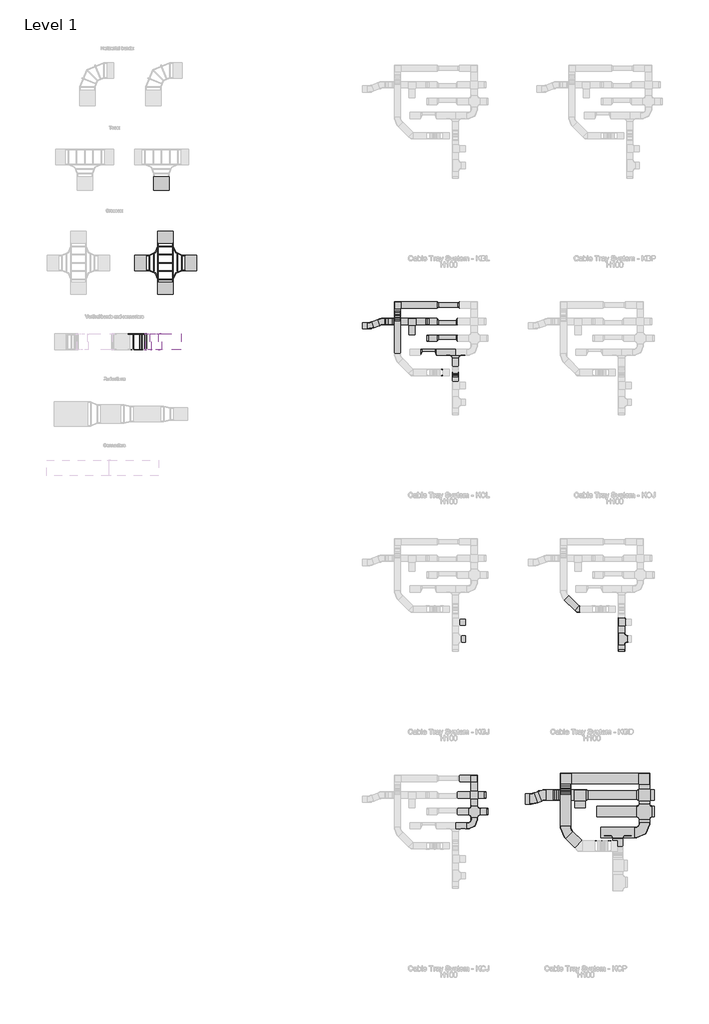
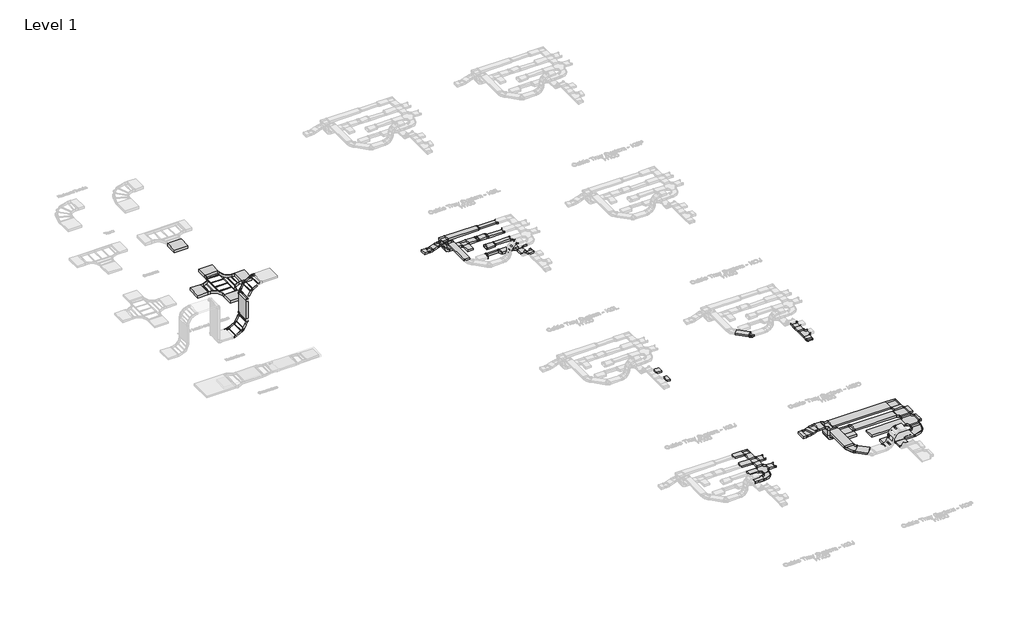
# One storey, part 22 of 106: 62 cable carrier fittings, 57 cable carrier segments.
"""IFC4 building model written with IfcOpenShell, lengths in millimetres."""

from ifc_helpers import new_model, si_unit, frame, origin, place, context, project, spatial, polyline, outline, extrude, transform, mapped, element, save
from components import cable_carrier_fitting_ce7a3b76, cable_carrier_fitting_4de00f68, cable_carrier_fitting_ece48d34, cable_carrier_fitting_d4f283aa, cable_carrier_fitting_389af67d, cable_carrier_fitting_ab346bf8, cable_carrier_fitting_c163f1ca, cable_carrier_fitting_32826c86, cable_carrier_fitting_42195290, cable_carrier_fitting_5f227b89, cable_carrier_fitting_7ef83dec, cable_carrier_fitting_24d58ad9, cable_carrier_fitting_81c76d70, cable_carrier_fitting_e69bf5bc, cable_carrier_fitting_b7b75895, cable_carrier_fitting_0afdfe74, cable_carrier_fitting_3a6d649d, cable_carrier_fitting_2d5aa353, cable_carrier_fitting_83230dc4, cable_carrier_fitting_3cbe9e62, cable_carrier_fitting_c86838e9, cable_carrier_fitting_985dcf24, cable_carrier_fitting_ca5a2d19, cable_carrier_fitting_8809d5a3, cable_carrier_fitting_4562ccd4, cable_carrier_fitting_dcc5a5fb, cable_carrier_fitting_a6edbbf3, cable_carrier_fitting_a0d47c04, cable_carrier_fitting_38514b7d, cable_carrier_fitting_a285f0eb, cable_carrier_fitting_ec34a846, cable_carrier_fitting_a7a9146a, cable_carrier_fitting_ade76aff, cable_carrier_fitting_570c6ff0, cable_carrier_fitting_0a0ebc2e, cable_carrier_fitting_3ce5f4b2, cable_carrier_fitting_32456c58, cable_carrier_fitting_46bfce34, cable_carrier_fitting_2a96a9fd, cable_carrier_fitting_8722d5a2, cable_carrier_fitting_851eb94e, cable_carrier_fitting_844d2b92, cable_carrier_fitting_c0e00dde

model = new_model("IFC4")

# Units and contexts
model_context = context("Model", 3, world=origin())
ifc_project = project(units=[si_unit("LENGTHUNIT", "METRE", prefix="MILLI")], contexts=[model_context])

# Site, building, storey
site = spatial("IfcSite", under=ifc_project)
building = spatial("IfcBuilding", under=site)
storey = spatial("IfcBuildingStorey", under=building, Name="Level 1", Elevation=0.0)

# Cable carrier fittings
placement = place(None, origin())
cable_carrier_fitting_shape = cable_carrier_fitting_ce7a3b76(model_context)
element("IfcCableCarrierFitting", 1, ObjectType="BAKS_LDLS_BEND_Adjustable vertical bend element_ELDS : ELDSC_H100", at=placement, inside=storey, context=model_context, shape_type="MappedRepresentation", body=[
    mapped(cable_carrier_fitting_shape, transform((144142.1548019, 56206.9805429, 55.0), x_axis=(0.8660254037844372, 0.0, 0.5000000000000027), y_axis=(0.0, 1.0, 0.0), z_axis=(-0.5000000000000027, 0.0, 0.8660254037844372))),
])
element("IfcCableCarrierFitting", 2, ObjectType="BAKS_LDLS_BEND_Adjustable vertical bend element_ELDS : ELDSC_H100", at=placement, inside=storey, context=model_context, shape_type="MappedRepresentation", body=[
    mapped(cable_carrier_fitting_shape, transform((144825.1675038, 56206.9805429, 738.0127019), x_axis=(-0.49999999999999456, 0.0, -0.8660254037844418), y_axis=(0.0, -1.0, 0.0), z_axis=(-0.8660254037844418, 0.0, 0.49999999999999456))),
])
element("IfcCableCarrierFitting", 3, ObjectType="BAKS_LDLS_BEND_Adjustable vertical bend element_ELDS : ELDSC_H100", at=placement, inside=storey, context=model_context, shape_type="MappedRepresentation", body=[
    mapped(cable_carrier_fitting_shape, transform((144825.1675038, 56206.9805429, 2053.6237578), x_axis=(0.5000000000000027, 0.0, 0.8660254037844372), y_axis=(0.0, -1.0, 0.0), z_axis=(0.8660254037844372, 0.0, -0.5000000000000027))),
])
element("IfcCableCarrierFitting", 4, ObjectType="BAKS_LDLS_BEND_Adjustable vertical bend element_ELDS : ELDSC_H100", at=placement, inside=storey, context=model_context, shape_type="MappedRepresentation", body=[
    mapped(cable_carrier_fitting_shape, transform((145508.1802057, 56206.9805429, 2736.6364597), x_axis=(-0.8660254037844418, 0.0, -0.49999999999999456), y_axis=(0.0, 1.0, 0.0), z_axis=(0.49999999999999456, 0.0, -0.8660254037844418))),
])
cable_carrier_fitting_2_shape = cable_carrier_fitting_4de00f68(model_context)
element("IfcCableCarrierFitting", 5, ObjectType="BAKS_LD_BEND_Articulated connector_LGC : LGC_H100", at=placement, inside=storey, context=model_context, shape_type="MappedRepresentation", body=[
    mapped(cable_carrier_fitting_2_shape, transform((144825.1675038, 56581.9805429, 2053.6237578), x_axis=(0.0, 0.0, 1.0), y_axis=(1.0, 0.0, 0.0), z_axis=(0.0, 1.0, 0.0))),
])
element("IfcCableCarrierFitting", 6, ObjectType="BAKS_LD_BEND_Articulated connector_LGC : LGC_H100", at=placement, inside=storey, context=model_context, shape_type="MappedRepresentation", body=[
    mapped(cable_carrier_fitting_2_shape, transform((145508.1802057, 56581.9805429, 2736.6364597), x_axis=(0.8660254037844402, 0.0, 0.49999999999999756), y_axis=(0.49999999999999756, 0.0, -0.8660254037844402), z_axis=(0.0, 1.0, 0.0))),
])
cable_carrier_fitting_3_shape = cable_carrier_fitting_ece48d34(model_context)
element("IfcCableCarrierFitting", 7, ObjectType="BAKS_LD_BEND_Articulated connector_LGC : LGC_H100", at=placement, inside=storey, context=model_context, shape_type="MappedRepresentation", body=[
    mapped(cable_carrier_fitting_3_shape, transform((144825.1675038, 56581.9805429, 738.0127019), x_axis=(0.4999999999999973, 0.0, 0.8660254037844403), y_axis=(0.8660254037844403, 0.0, -0.4999999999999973), z_axis=(0.0, 1.0, 0.0))),
])
element("IfcCableCarrierFitting", 8, ObjectType="BAKS_LD_BEND_Articulated connector_LGC : LGC_H100", at=placement, inside=storey, context=model_context, shape_type="MappedRepresentation", body=[
    mapped(cable_carrier_fitting_3_shape, transform((144142.1548019, 56581.9805429, 55.0), x_axis=(1.0, 0.0, 0.0), y_axis=(0.0, 0.0, -1.0), z_axis=(0.0, 1.0, 0.0))),
])
cable_carrier_fitting_4_shape = cable_carrier_fitting_d4f283aa(model_context)
element("IfcCableCarrierFitting", 9, ObjectType="BAKS_Reducer : RK(S/L/P)J_H100", at=placement, inside=storey, context=model_context, shape_type="MappedRepresentation", body=[
    mapped(cable_carrier_fitting_4_shape, transform((158399.3329462, 57180.8714214, 0.0), x_axis=(1.0, 0.0, 0.0), y_axis=(0.0, 1.0, 0.0), z_axis=(0.0, 0.0, 1.0))),
])
element("IfcCableCarrierFitting", 10, ObjectType="BAKS_Reducer : RK(S/L/P)J_H100", at=placement, inside=storey, context=model_context, shape_type="MappedRepresentation", body=[
    mapped(cable_carrier_fitting_4_shape, transform((158399.3329462, 57180.8714214, 0.0), x_axis=(-1.0, 0.0, 0.0), y_axis=(0.0, -1.0, 0.0), z_axis=(0.0, 0.0, 1.0))),
])
element("IfcCableCarrierFitting", 11, ObjectType="BAKS_Reducer : RK(S/L/P)J_H100", at=placement, inside=storey, context=model_context, shape_type="MappedRepresentation", body=[
    mapped(cable_carrier_fitting_4_shape, transform((158377.8329462, 56380.8714214, 0.0), x_axis=(1.0, 0.0, 0.0), y_axis=(0.0, 1.0, 0.0), z_axis=(0.0, 0.0, 1.0))),
])
element("IfcCableCarrierFitting", 12, ObjectType="BAKS_Reducer : RK(S/L/P)J_H100", at=placement, inside=storey, context=model_context, shape_type="MappedRepresentation", body=[
    mapped(cable_carrier_fitting_4_shape, transform((167753.8329462, 41294.2974728, 432.5277378), x_axis=(0.0, 1.0, 0.0), y_axis=(-1.0, 0.0, 0.0), z_axis=(0.0, 0.0, 1.0))),
])
element("IfcCableCarrierFitting", 13, ObjectType="BAKS_Reducer : RK(S/L/P)J_H100", at=placement, inside=storey, context=model_context, shape_type="MappedRepresentation", body=[
    mapped(cable_carrier_fitting_4_shape, transform((161211.8329462, 34380.8714214, 0.0), x_axis=(-1.0, 0.0, 0.0), y_axis=(0.0, -1.0, 0.0), z_axis=(0.0, 0.0, 1.0))),
])
element("IfcCableCarrierFitting", 14, ObjectType="BAKS_Reducer : RK(S/L/P)J_H100", at=placement, inside=storey, context=model_context, shape_type="MappedRepresentation", body=[
    mapped(cable_carrier_fitting_4_shape, transform((161325.8329462, 33580.8714214, 0.0), x_axis=(-1.0, 0.0, 0.0), y_axis=(0.0, -1.0, 0.0), z_axis=(0.0, 0.0, 1.0))),
])
cable_carrier_fitting_5_shape = cable_carrier_fitting_389af67d(model_context)
element("IfcCableCarrierFitting", 15, ObjectType="BAKS_Reducer : RK(S/L/P)J_H100", at=placement, inside=storey, context=model_context, shape_type="MappedRepresentation", body=[
    mapped(cable_carrier_fitting_5_shape, transform((158856.8329462, 57980.8714214, 0.0), x_axis=(1.0, 0.0, 0.0), y_axis=(0.0, 1.0, 0.0), z_axis=(0.0, 0.0, 1.0))),
])
cable_carrier_fitting_6_shape = cable_carrier_fitting_ab346bf8(model_context)
element("IfcCableCarrierFitting", 16, ObjectType="BAKS_Reducer : RK(S/L/P)J_H100", at=placement, inside=storey, context=model_context, shape_type="MappedRepresentation", body=[
    mapped(cable_carrier_fitting_6_shape, transform((159856.8329462, 57980.8714214, 0.0), x_axis=(1.0, 0.0, 0.0), y_axis=(0.0, 1.0, 0.0), z_axis=(0.0, 0.0, 1.0))),
])
cable_carrier_fitting_7_shape = cable_carrier_fitting_c163f1ca(model_context)
element("IfcCableCarrierFitting", 17, ObjectType="BAKS_Reducer : RK(S/L/P)J_H100", at=placement, inside=storey, context=model_context, shape_type="MappedRepresentation", body=[
    mapped(cable_carrier_fitting_7_shape, transform((159761.8329462, 57130.8714214, 0.0), x_axis=(1.0, 0.0, 0.0), y_axis=(0.0, 1.0, 0.0), z_axis=(0.0, 0.0, 1.0))),
])
element("IfcCableCarrierFitting", 18, ObjectType="BAKS_Reducer : RK(S/L/P)J_H100", at=placement, inside=storey, context=model_context, shape_type="MappedRepresentation", body=[
    mapped(cable_carrier_fitting_7_shape, transform((158951.8329462, 56430.8714214, 0.0), x_axis=(-1.0, 0.0, 0.0), y_axis=(0.0, -1.0, 0.0), z_axis=(0.0, 0.0, 1.0))),
])
cable_carrier_fitting_8_shape = cable_carrier_fitting_32826c86(model_context)
element("IfcCableCarrierFitting", 19, ObjectType="BAKS_Reducer : RK(S/L/P)J_H100", at=placement, inside=storey, context=model_context, shape_type="MappedRepresentation", body=[
    mapped(cable_carrier_fitting_8_shape, transform((158951.8329462, 57130.8714214, 0.0), x_axis=(-1.0, 0.0, 0.0), y_axis=(0.0, -1.0, 0.0), z_axis=(0.0, 0.0, 1.0))),
])
element("IfcCableCarrierFitting", 20, ObjectType="BAKS_Reducer : RK(S/L/P)J_H100", at=placement, inside=storey, context=model_context, shape_type="MappedRepresentation", body=[
    mapped(cable_carrier_fitting_8_shape, transform((159761.8329462, 56430.8714214, 0.0), x_axis=(1.0, 0.0, 0.0), y_axis=(0.0, 1.0, 0.0), z_axis=(0.0, 0.0, 1.0))),
])
cable_carrier_fitting_9_shape = cable_carrier_fitting_42195290(model_context)
element("IfcCableCarrierFitting", 21, ObjectType="BAKS_Horizontal bend : KKJ/KKMJ_H100", at=placement, inside=storey, context=model_context, shape_type="MappedRepresentation", body=[
    mapped(cable_carrier_fitting_9_shape, transform((156956.8329462, 57980.8714214, 0.0), x_axis=(-1.0, 0.0, 0.0), y_axis=(0.0, -1.0, 0.0), z_axis=(0.0, 0.0, 1.0))),
])
element("IfcCableCarrierFitting", 22, ObjectType="BAKS_Horizontal bend : KKJ/KKMJ_H100", at=placement, inside=storey, context=model_context, shape_type="MappedRepresentation", body=[
    mapped(cable_carrier_fitting_9_shape, transform((160656.8329462, 35180.8714214, 0.0), x_axis=(0.0, 1.0, 0.0), y_axis=(-1.0, 0.0, 0.0), z_axis=(0.0, 0.0, 1.0))),
])
cable_carrier_fitting_10_shape = cable_carrier_fitting_5f227b89(model_context)
element("IfcCableCarrierFitting", 23, ObjectType="BAKS_Horizontal cross over : CZKJ_H100", at=placement, inside=storey, context=model_context, shape_type="MappedRepresentation", body=[
    mapped(cable_carrier_fitting_10_shape, transform((160656.8329462, 34380.8714214, 0.0), x_axis=(0.0, -1.0, 0.0), y_axis=(1.0, 0.0, 0.0), z_axis=(0.0, 0.0, 1.0))),
])
cable_carrier_fitting_11_shape = cable_carrier_fitting_7ef83dec(model_context)
element("IfcCableCarrierFitting", 24, ObjectType="BAKS_Horizontal cross over radius : CZKPJ_H100", at=placement, inside=storey, context=model_context, shape_type="MappedRepresentation", body=[
    mapped(cable_carrier_fitting_11_shape, transform((160656.8329462, 33580.8714214, 0.0), x_axis=(0.0, -1.0, 0.0), y_axis=(1.0, 0.0, 0.0), z_axis=(0.0, 0.0, 1.0))),
])
cable_carrier_fitting_12_shape = cable_carrier_fitting_24d58ad9(model_context)
element("IfcCableCarrierFitting", 25, ObjectType="BAKS_Horizontal bend radius : KKPJ/KKMPJ_H100", at=placement, inside=storey, context=model_context, shape_type="MappedRepresentation", body=[
    mapped(cable_carrier_fitting_12_shape, transform((160656.8329462, 32899.8714214, 0.0), x_axis=(1.0, 0.0, 0.0), y_axis=(0.0, 1.0, 0.0), z_axis=(0.0, 0.0, 1.0))),
])
cable_carrier_fitting_13_shape = cable_carrier_fitting_81c76d70(model_context)
element("IfcCableCarrierFitting", 26, ObjectType="BAKS_Horizontal addon tee : TKDJ_H100", at=placement, inside=storey, context=model_context, shape_type="MappedRepresentation", body=[
    mapped(cable_carrier_fitting_13_shape, transform((159753.8329462, 55699.8714214, 0.0), x_axis=(1.0, 0.0, 0.0), y_axis=(0.0, 1.0, 0.0), z_axis=(0.0, 0.0, 1.0))),
])
cable_carrier_fitting_14_shape = cable_carrier_fitting_e69bf5bc(model_context)
element("IfcCableCarrierFitting", 27, ObjectType="BAKS_Reducer : RK(S/L/P)J_H100", at=placement, inside=storey, context=model_context, shape_type="MappedRepresentation", body=[
    mapped(cable_carrier_fitting_14_shape, transform((158750.8329462, 55799.8714214, 0.0), x_axis=(1.0, 0.0, 0.0), y_axis=(0.0, 1.0, 0.0), z_axis=(0.0, 0.0, 1.0))),
])
cable_carrier_fitting_15_shape = cable_carrier_fitting_b7b75895(model_context)
element("IfcCableCarrierFitting", 28, ObjectType="BAKS_Reducer : RK(S/L/P)J_H100", at=placement, inside=storey, context=model_context, shape_type="MappedRepresentation", body=[
    mapped(cable_carrier_fitting_15_shape, transform((158152.8329462, 55799.8714214, 0.0), x_axis=(-1.0, 0.0, 0.0), y_axis=(0.0, -1.0, 0.0), z_axis=(0.0, 0.0, 1.0))),
])
cable_carrier_fitting_16_shape = cable_carrier_fitting_0afdfe74(model_context)
element("IfcCableCarrierFitting", 29, ObjectType="BAKS_Horizontal tee : TKJ_H100", at=placement, inside=storey, context=model_context, shape_type="MappedRepresentation", body=[
    mapped(cable_carrier_fitting_16_shape, transform((157656.3329462, 57180.8714214, 0.0), x_axis=(1.0, 0.0, 0.0), y_axis=(0.0, 1.0, 0.0), z_axis=(0.0, 0.0, 1.0))),
])
element("IfcCableCarrierFitting", 30, ObjectType="BAKS_Horizontal tee : TKJ_H100", at=placement, inside=storey, context=model_context, shape_type="MappedRepresentation", body=[
    mapped(cable_carrier_fitting_16_shape, transform((167753.8329462, 42703.8631068, 432.5277378), x_axis=(0.0, 1.0, 0.0), y_axis=(-1.0, 0.0, 0.0), z_axis=(0.0, 0.0, 1.0))),
])
cable_carrier_fitting_17_shape = cable_carrier_fitting_3a6d649d(model_context)
element("IfcCableCarrierFitting", 31, ObjectType="BAKS_Horizontal bend radius : KKPJ/KKMPJ_H100", at=placement, inside=storey, context=model_context, shape_type="MappedRepresentation", body=[
    mapped(cable_carrier_fitting_17_shape, transform((156186.1981218, 57180.8714214, 438.0), x_axis=(-1.0, 0.0, 0.0), y_axis=(0.0, -1.0, 0.0), z_axis=(0.0, 0.0, 1.0))),
])
element("IfcCableCarrierFitting", 32, ObjectType="BAKS_Horizontal bend radius : KKPJ/KKMPJ_H100", at=placement, inside=storey, context=model_context, shape_type="MappedRepresentation", body=[
    mapped(cable_carrier_fitting_17_shape, transform((155630.7130894, 56978.691404, 438.0), x_axis=(1.0, 0.0, 0.0), y_axis=(0.0, 1.0, 0.0), z_axis=(0.0, 0.0, 1.0))),
])
cable_carrier_fitting_18_shape = cable_carrier_fitting_2d5aa353(model_context)
element("IfcCableCarrierFitting", 33, ObjectType="BAKS_BEND_Articulated connector_LGP : LGP_H100", at=placement, inside=storey, context=model_context, shape_type="MappedRepresentation", body=[
    mapped(cable_carrier_fitting_18_shape, transform((166853.7340999, 32181.3714214, 760.9736411), x_axis=(0.0, 0.0, 1.0), y_axis=(1.0, 0.0, 0.0), z_axis=(0.0, 1.0, 0.0))),
])
cable_carrier_fitting_19_shape = cable_carrier_fitting_83230dc4(model_context)
element("IfcCableCarrierFitting", 34, ObjectType="BAKS_BEND_Articulated connector_LGP : LGP_H100", at=placement, inside=storey, context=model_context, shape_type="MappedRepresentation", body=[
    mapped(cable_carrier_fitting_19_shape, transform((159050.1616126, 54881.3714214, 1057.4011537), x_axis=(0.8660254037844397, 0.0, 0.4999999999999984), y_axis=(0.4999999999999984, 0.0, -0.8660254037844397), z_axis=(0.0, 1.0, 0.0))),
])
element("IfcCableCarrierFitting", 35, ObjectType="BAKS_BEND_Articulated connector_LGP : LGP_H100", at=placement, inside=storey, context=model_context, shape_type="MappedRepresentation", body=[
    mapped(cable_carrier_fitting_19_shape, transform((167150.1616126, 32181.3714214, 1057.4011537), x_axis=(0.8660254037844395, 0.0, 0.4999999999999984), y_axis=(0.4999999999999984, 0.0, -0.8660254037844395), z_axis=(0.0, 1.0, 0.0))),
])
cable_carrier_fitting_20_shape = cable_carrier_fitting_3cbe9e62(model_context)
element("IfcCableCarrierFitting", 36, ObjectType="BAKS_BEND_Articulated connector_LGP : LGP_H100", at=placement, inside=storey, context=model_context, shape_type="MappedRepresentation", body=[
    mapped(cable_carrier_fitting_20_shape, transform((159050.1616126, 54581.3714214, 1057.4011537), x_axis=(0.8660254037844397, 0.0, 0.4999999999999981), y_axis=(-0.4999999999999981, 0.0, 0.8660254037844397), z_axis=(0.0, -1.0, 0.0))),
])
element("IfcCableCarrierFitting", 37, ObjectType="BAKS_BEND_Articulated connector_LGP : LGP_H100", at=placement, inside=storey, context=model_context, shape_type="MappedRepresentation", body=[
    mapped(cable_carrier_fitting_20_shape, transform((166853.7340999, 32181.3714214, 531.4275126), x_axis=(0.4999999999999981, 0.0, 0.8660254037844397), y_axis=(0.8660254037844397, 0.0, -0.4999999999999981), z_axis=(0.0, 1.0, 0.0))),
])
cable_carrier_fitting_21_shape = cable_carrier_fitting_c86838e9(model_context)
element("IfcCableCarrierFitting", 38, ObjectType="BAKS_BEND_Articulated connector_LGP : LGP_H100", at=placement, inside=storey, context=model_context, shape_type="MappedRepresentation", body=[
    mapped(cable_carrier_fitting_21_shape, transform((166557.3065873, 32181.3714214, 235.0), x_axis=(1.0, 0.0, 0.0), y_axis=(0.0, 0.0, -1.0), z_axis=(0.0, 1.0, 0.0))),
])
cable_carrier_fitting_22_shape = cable_carrier_fitting_985dcf24(model_context)
element("IfcCableCarrierFitting", 39, ObjectType="BAKS_Horizontal bend : KKJ/KKMJ_H100", at=placement, inside=storey, context=model_context, shape_type="MappedRepresentation", body=[
    mapped(cable_carrier_fitting_22_shape, transform((165656.3329462, 43331.3714214, 235.0), x_axis=(0.707106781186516, -0.707106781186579, 0.0), y_axis=(0.707106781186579, 0.707106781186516, 0.0), z_axis=(0.0, 0.0, 1.0))),
])
cable_carrier_fitting_23_shape = cable_carrier_fitting_ca5a2d19(model_context)
element("IfcCableCarrierFitting", 40, ObjectType="BAKS_Horizontal tee radius : TKPJ_H100", at=placement, inside=storey, context=model_context, shape_type="MappedRepresentation", body=[
    mapped(cable_carrier_fitting_23_shape, transform((167753.8329462, 41896.5802898, 432.5277378), x_axis=(0.0, 1.0, 0.0), y_axis=(-1.0, 0.0, 0.0), z_axis=(0.0, 0.0, 1.0))),
])
cable_carrier_fitting_24_shape = cable_carrier_fitting_8809d5a3(model_context)
element("IfcCableCarrierFitting", 41, ObjectType="BAKS_Horizontal tee : TKJ_H100", at=placement, inside=storey, context=model_context, shape_type="MappedRepresentation", body=[
    mapped(cable_carrier_fitting_24_shape, transform((165756.3329462, 34380.8714214, 0.0), x_axis=(1.0, 0.0, 0.0), y_axis=(0.0, 1.0, 0.0), z_axis=(0.0, 0.0, 1.0))),
])
cable_carrier_fitting_25_shape = cable_carrier_fitting_4562ccd4(model_context)
element("IfcCableCarrierFitting", 42, ObjectType="BAKS_Horizontal addon tee : TKDJ_H100", at=placement, inside=storey, context=model_context, shape_type="MappedRepresentation", body=[
    mapped(cable_carrier_fitting_25_shape, transform((167573.8329462, 32579.8714214, 0.0), x_axis=(1.0, 0.0, 0.0), y_axis=(0.0, 1.0, 0.0), z_axis=(0.0, 0.0, 1.0))),
])
cable_carrier_fitting_26_shape = cable_carrier_fitting_dcc5a5fb(model_context)
element("IfcCableCarrierFitting", 43, ObjectType="BAKS_Horizontal bend : KKP/KKMP_H100", at=placement, inside=storey, context=model_context, shape_type="MappedRepresentation", body=[
    mapped(cable_carrier_fitting_26_shape, transform((168856.8329462, 35180.8714214, 0.0), x_axis=(0.0, 1.0, 0.0), y_axis=(-1.0, 0.0, 0.0), z_axis=(0.0, 0.0, 1.0))),
])
element("IfcCableCarrierFitting", 44, ObjectType="BAKS_Horizontal bend : KKP/KKMP_H100", at=placement, inside=storey, context=model_context, shape_type="MappedRepresentation", body=[
    mapped(cable_carrier_fitting_26_shape, transform((165056.8329462, 35180.8714214, 0.0), x_axis=(-1.0, 0.0, 0.0), y_axis=(0.0, -1.0, 0.0), z_axis=(0.0, 0.0, 1.0))),
])
cable_carrier_fitting_27_shape = cable_carrier_fitting_a6edbbf3(model_context)
element("IfcCableCarrierFitting", 45, ObjectType="BAKS_Horizontal cross over : CZKP_H100", at=placement, inside=storey, context=model_context, shape_type="MappedRepresentation", body=[
    mapped(cable_carrier_fitting_27_shape, transform((168856.8329462, 34380.8714214, 0.0), x_axis=(0.0, -1.0, 0.0), y_axis=(1.0, 0.0, 0.0), z_axis=(0.0, 0.0, 1.0))),
])
cable_carrier_fitting_28_shape = cable_carrier_fitting_a0d47c04(model_context)
element("IfcCableCarrierFitting", 46, ObjectType="BAKS_Horizontal cross over radius : CZKPP_H100", at=placement, inside=storey, context=model_context, shape_type="MappedRepresentation", body=[
    mapped(cable_carrier_fitting_28_shape, transform((168856.8329462, 33580.8714214, 0.0), x_axis=(0.0, -1.0, 0.0), y_axis=(1.0, 0.0, 0.0), z_axis=(0.0, 0.0, 1.0))),
])
cable_carrier_fitting_29_shape = cable_carrier_fitting_38514b7d(model_context)
element("IfcCableCarrierFitting", 47, ObjectType="BAKS_Reducer : RK(S/L/P)J_H100", at=placement, inside=storey, context=model_context, shape_type="MappedRepresentation", body=[
    mapped(cable_carrier_fitting_29_shape, transform((168551.8329462, 34380.8714214, 0.0), x_axis=(-1.0, 0.0, 0.0), y_axis=(0.0, -1.0, 0.0), z_axis=(0.0, 0.0, 1.0))),
])
cable_carrier_fitting_30_shape = cable_carrier_fitting_a285f0eb(model_context)
element("IfcCableCarrierFitting", 48, ObjectType="BAKS_Reducer : RK(S/L/P)J_H100", at=placement, inside=storey, context=model_context, shape_type="MappedRepresentation", body=[
    mapped(cable_carrier_fitting_30_shape, transform((166156.3329462, 34380.8714214, 0.0), x_axis=(-1.0, 0.0, 0.0), y_axis=(0.0, -1.0, 0.0), z_axis=(0.0, 0.0, 1.0))),
])
cable_carrier_fitting_31_shape = cable_carrier_fitting_ec34a846(model_context)
element("IfcCableCarrierFitting", 49, ObjectType="BAKS_Horizontal bend radius : KKPP/KKMPP_H100", at=placement, inside=storey, context=model_context, shape_type="MappedRepresentation", body=[
    mapped(cable_carrier_fitting_31_shape, transform((163966.1981218, 34380.8714214, 738.0), x_axis=(-1.0, 0.0, 0.0), y_axis=(0.0, -1.0, 0.0), z_axis=(0.0, 0.0, 1.0))),
])
element("IfcCableCarrierFitting", 50, ObjectType="BAKS_Horizontal bend radius : KKPP/KKMPP_H100", at=placement, inside=storey, context=model_context, shape_type="MappedRepresentation", body=[
    mapped(cable_carrier_fitting_31_shape, transform((163487.0862935, 34195.0646081, 738.0), x_axis=(1.0, 0.0, 0.0), y_axis=(0.0, 1.0, 0.0), z_axis=(0.0, 0.0, 1.0))),
])
cable_carrier_fitting_32_shape = cable_carrier_fitting_a7a9146a(model_context)
element("IfcCableCarrierFitting", 51, ObjectType="BAKS_Horizontal bend radius : KKPP/KKMPP_H100", at=placement, inside=storey, context=model_context, shape_type="MappedRepresentation", body=[
    mapped(cable_carrier_fitting_32_shape, transform((165056.8329462, 32630.8714214, 235.0), x_axis=(0.0, -1.0, 0.0), y_axis=(1.0, 0.0, 0.0), z_axis=(0.0, 0.0, 1.0))),
])
cable_carrier_fitting_33_shape = cable_carrier_fitting_ade76aff(model_context)
element("IfcCableCarrierFitting", 52, ObjectType="BAKS_Horizontal bend radius : KKPP/KKMPP_H100", at=placement, inside=storey, context=model_context, shape_type="MappedRepresentation", body=[
    mapped(cable_carrier_fitting_33_shape, transform((168856.8329462, 32579.8714214, 0.0), x_axis=(1.0, 0.0, 0.0), y_axis=(0.0, 1.0, 0.0), z_axis=(0.0, 0.0, 1.0))),
])
cable_carrier_fitting_34_shape = cable_carrier_fitting_570c6ff0(model_context)
element("IfcCableCarrierFitting", 53, ObjectType="BAKS_LD_CROSS_Horizontal cross over_CZDV : CZDVC_H150", at=placement, inside=storey, context=model_context, shape_type="MappedRepresentation", body=[
    mapped(cable_carrier_fitting_34_shape, transform((145780.1043169, 60009.3740469, 55.0), x_axis=(0.0, -1.0, 0.0), y_axis=(1.0, 0.0, 0.0), z_axis=(0.0, 0.0, 1.0))),
])
cable_carrier_fitting_35_shape = cable_carrier_fitting_0a0ebc2e(model_context)
element("IfcCableCarrierFitting", 54, ObjectType="BAKS_KK_Vertical bend INTERNAL_LU : LUNJ_H100", at=placement, inside=storey, context=model_context, shape_type="MappedRepresentation", body=[
    mapped(cable_carrier_fitting_35_shape, transform((156556.3329462, 57180.8714214, 438.0), x_axis=(0.0, 0.0, 1.0), y_axis=(-1.0, 0.0, 0.0), z_axis=(0.0, -1.0, 0.0))),
])
cable_carrier_fitting_36_shape = cable_carrier_fitting_3ce5f4b2(model_context)
element("IfcCableCarrierFitting", 55, ObjectType="BAKS_KK_Vertical bend EXTERNAL_LU : LUMNP_H100", at=placement, inside=storey, context=model_context, shape_type="MappedRepresentation", body=[
    mapped(cable_carrier_fitting_36_shape, transform((165056.8329462, 34760.8714214, 0.0), x_axis=(0.0, -1.0, 0.0), y_axis=(0.0, 0.0, 1.0), z_axis=(-1.0, 0.0, 0.0))),
])
cable_carrier_fitting_37_shape = cable_carrier_fitting_32456c58(model_context)
element("IfcCableCarrierFitting", 56, ObjectType="BAKS_KK_Vertical bend INTERNAL_LU : LUMNP_H100", at=placement, inside=storey, context=model_context, shape_type="MappedRepresentation", body=[
    mapped(cable_carrier_fitting_37_shape, transform((165056.8329462, 34525.8714214, 235.0), x_axis=(0.0, 1.0, 0.0), y_axis=(0.0, 0.0, -1.0), z_axis=(-1.0, 0.0, 0.0))),
])
cable_carrier_fitting_38_shape = cable_carrier_fitting_46bfce34(model_context)
element("IfcCableCarrierFitting", 57, ObjectType="BAKS_KK_Vertical bend EXTERNAL_LU : LUNJ_H100", at=placement, inside=storey, context=model_context, shape_type="MappedRepresentation", body=[
    mapped(cable_carrier_fitting_38_shape, transform((156556.3329462, 57180.8714214, 0.0), x_axis=(-1.0, 0.0, 0.0), y_axis=(0.0, 0.0, 1.0), z_axis=(0.0, 1.0, 0.0))),
])
cable_carrier_fitting_39_shape = cable_carrier_fitting_2a96a9fd(model_context)
element("IfcCableCarrierFitting", 58, ObjectType="BAKS_KK_Vertical bend EXTERNAL_LU : LUNJ_H100", at=placement, inside=storey, context=model_context, shape_type="MappedRepresentation", body=[
    mapped(cable_carrier_fitting_39_shape, transform((164656.3329462, 34380.8714214, 0.0), x_axis=(-1.0, 0.0, 0.0), y_axis=(0.0, 0.0, 1.0), z_axis=(0.0, 1.0, 0.0))),
])
cable_carrier_fitting_40_shape = cable_carrier_fitting_8722d5a2(model_context)
element("IfcCableCarrierFitting", 59, ObjectType="BAKS_KK_Vertical bend INTERNAL_LU : LUNJ_H100", at=placement, inside=storey, context=model_context, shape_type="MappedRepresentation", body=[
    mapped(cable_carrier_fitting_40_shape, transform((164656.3329462, 34380.8714214, 738.0), x_axis=(0.0, 0.0, 1.0), y_axis=(-1.0, 0.0, 0.0), z_axis=(0.0, -1.0, 0.0))),
])
cable_carrier_fitting_41_shape = cable_carrier_fitting_851eb94e(model_context)
element("IfcCableCarrierFitting", 60, ObjectType="BAKS_KK_Vertical bend EXTERNAL_LU : LUMNJ_H100", at=placement, inside=storey, context=model_context, shape_type="MappedRepresentation", body=[
    mapped(cable_carrier_fitting_41_shape, transform((156956.8329462, 57560.8714214, 0.0), x_axis=(0.0, -1.0, 0.0), y_axis=(0.0, 0.0, 1.0), z_axis=(-1.0, 0.0, 0.0))),
])
cable_carrier_fitting_42_shape = cable_carrier_fitting_844d2b92(model_context)
element("IfcCableCarrierFitting", 61, ObjectType="BAKS_KK_Vertical bend INTERNAL_LU : LUMNJ_H100", at=placement, inside=storey, context=model_context, shape_type="MappedRepresentation", body=[
    mapped(cable_carrier_fitting_42_shape, transform((159753.8329462, 54657.0146558, 432.5277378), x_axis=(0.0, -0.42261826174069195, 0.9063077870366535), y_axis=(0.0, -0.9063077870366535, -0.42261826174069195), z_axis=(1.0, 0.0, 0.0))),
])
cable_carrier_fitting_43_shape = cable_carrier_fitting_c0e00dde(model_context)
element("IfcCableCarrierFitting", 62, ObjectType="BAKS_KK_Vertical bend INTERNAL_LU : LUMNJ_H100", at=placement, inside=storey, context=model_context, shape_type="MappedRepresentation", body=[
    mapped(cable_carrier_fitting_43_shape, transform((156956.8329462, 57325.8714214, 235.0), x_axis=(0.0, 1.0, 0.0), y_axis=(0.0, 0.0, -1.0), z_axis=(-1.0, 0.0, 0.0))),
])

# Cable carrier segments
element("IfcCableCarrierSegment", 63, ObjectType="BAKS - Ladder H150 (DUVC)", at=placement, inside=storey, context=model_context, shape_type="SweptSolid", body=[
    extrude(outline(polyline([(146725.1043169, 59634.3740469), (146725.1043169, 60384.3740469), (147280.1043169, 60384.3740469), (147280.1043169, 59634.3740469), (146725.1043169, 59634.3740469)])), frame((0.0, 0.0, -20.0), z_axis=(0.0, 0.0, 1.0), x_axis=(1.0, 0.0, 0.0)), (0.0, 0.0, 1.0), 150.0),
])
element("IfcCableCarrierSegment", 64, ObjectType="BAKS - Ladder H150 (DUVC)", at=placement, inside=storey, context=model_context, shape_type="SweptSolid", body=[
    extrude(outline(polyline([(144835.1043169, 60384.3740469), (144835.1043169, 59634.3740469), (144280.1043169, 59634.3740469), (144280.1043169, 60384.3740469), (144835.1043169, 60384.3740469)])), frame((0.0, 0.0, -20.0), z_axis=(0.0, 0.0, 1.0), x_axis=(1.0, 0.0, 0.0)), (0.0, 0.0, 1.0), 150.0),
])
element("IfcCableCarrierSegment", 65, ObjectType="BAKS - Ladder H150 (DUVC)", at=placement, inside=storey, context=model_context, shape_type="SweptSolid", body=[
    extrude(outline(polyline([(146155.1043169, 60954.3740469), (145405.1043169, 60954.3740469), (145405.1043169, 61529.3740469), (146155.1043169, 61529.3740469), (146155.1043169, 60954.3740469)])), frame((0.0, 0.0, -20.0), z_axis=(0.0, 0.0, 1.0), x_axis=(1.0, 0.0, 0.0)), (0.0, 0.0, 1.0), 150.0),
])
element("IfcCableCarrierSegment", 66, ObjectType="BAKS - Ladder H150 (DUVC)", at=placement, inside=storey, context=model_context, shape_type="SweptSolid", body=[
    extrude(outline(polyline([(145205.1043169, 64153.4267449), (145955.1043169, 64153.4267449), (145955.1043169, 63510.0532021), (145205.1043169, 63510.0532021), (145205.1043169, 64153.4267449)])), frame((0.0, 0.0, -20.0), z_axis=(0.0, 0.0, 1.0), x_axis=(1.0, 0.0, 0.0)), (0.0, 0.0, 1.0), 150.0),
])
element("IfcCableCarrierSegment", 67, ObjectType="BAKS - Ladder H150 (DUVC)", at=placement, inside=storey, context=model_context, shape_type="SweptSolid", body=[
    extrude(outline(polyline([(146155.1043169, 58489.3740469), (145405.1043169, 58489.3740469), (145405.1043169, 59064.3740469), (146155.1043169, 59064.3740469), (146155.1043169, 58489.3740469)])), frame((0.0, 0.0, -20.0), z_axis=(0.0, 0.0, 1.0), x_axis=(1.0, 0.0, 0.0)), (0.0, 0.0, 1.0), 150.0),
])
element("IfcCableCarrierSegment", 68, ObjectType="BAKS - Ladder H100 (DUVC)", at=placement, inside=storey, context=model_context, shape_type="SweptSolid", body=[
    extrude(outline(polyline([(144875.1675038, 55831.9805429), (144775.1675038, 55831.9805429), (144775.1675038, 56581.9805429), (144875.1675038, 56581.9805429), (144875.1675038, 55831.9805429)])), frame((0.0, 0.0, 838.0127019), z_axis=(0.0, 0.0, 1.0), x_axis=(1.0, 0.0, 0.0)), (0.0, 0.0, 1.0), 1115.6110559),
])
element("IfcCableCarrierSegment", 69, ObjectType="BAKS - Ladder H100 (DUVC)", at=placement, inside=storey, context=model_context, shape_type="SweptSolid", body=[
    extrude(outline(polyline([(145608.1802057, 55831.9805429), (145608.1802057, 56581.9805429), (146525.1675038, 56581.9805429), (146525.1675038, 55831.9805429), (145608.1802057, 55831.9805429)])), frame((0.0, 0.0, 2686.6364597), z_axis=(0.0, 0.0, 1.0), x_axis=(1.0, 0.0, 0.0)), (0.0, 0.0, 1.0), 100.0),
])
element("IfcCableCarrierSegment", 70, ObjectType="BAKS - Cable tray H100 (KBL)", at=placement, inside=storey, context=model_context, shape_type="SweptSolid", body=[
    extrude(outline(polyline([(158951.8329462, 57880.8714214), (158951.8329462, 58080.8714214), (159856.8329462, 58080.8714214), (159856.8329462, 57880.8714214), (158951.8329462, 57880.8714214)])), frame((0.0, 0.0, -50.0), z_axis=(0.0, 0.0, 1.0), x_axis=(1.0, 0.0, 0.0)), (0.0, 0.0, 1.0), 100.0),
])
element("IfcCableCarrierSegment", 71, ObjectType="BAKS - Cable tray H100 (KBL)", at=placement, inside=storey, context=model_context, shape_type="SweptSolid", body=[
    extrude(outline(polyline([(159761.8329462, 57230.8714214), (159761.8329462, 57030.8714214), (158951.8329462, 57030.8714214), (158951.8329462, 57230.8714214), (159761.8329462, 57230.8714214)])), frame((0.0, 0.0, -50.0), z_axis=(0.0, 0.0, 1.0), x_axis=(1.0, 0.0, 0.0)), (0.0, 0.0, 1.0), 100.0),
])
element("IfcCableCarrierSegment", 72, ObjectType="BAKS - Cable tray H100 (KBL)", at=placement, inside=storey, context=model_context, shape_type="SweptSolid", body=[
    extrude(outline(polyline([(158494.3329462, 57030.8714214), (158494.3329462, 57330.8714214), (158856.8329462, 57330.8714214), (158856.8329462, 57030.8714214), (158494.3329462, 57030.8714214)])), frame((0.0, 0.0, -50.0), z_axis=(0.0, 0.0, 1.0), x_axis=(1.0, 0.0, 0.0)), (0.0, 0.0, 1.0), 100.0),
])
element("IfcCableCarrierSegment", 73, ObjectType="BAKS - Cable tray H100 (KBL)", at=placement, inside=storey, context=model_context, shape_type="SweptSolid", body=[
    extrude(outline(polyline([(159761.8329462, 56530.8714214), (159761.8329462, 56330.8714214), (158951.8329462, 56330.8714214), (158951.8329462, 56530.8714214), (159761.8329462, 56530.8714214)])), frame((0.0, 0.0, -50.0), z_axis=(0.0, 0.0, 1.0), x_axis=(1.0, 0.0, 0.0)), (0.0, 0.0, 1.0), 100.0),
])
element("IfcCableCarrierSegment", 74, ObjectType="BAKS - Cable tray H100 (KBL)", at=placement, inside=storey, context=model_context, shape_type="SweptSolid", body=[
    extrude(outline(polyline([(158472.8329462, 56230.8714214), (158472.8329462, 56530.8714214), (158856.8329462, 56530.8714214), (158856.8329462, 56230.8714214), (158472.8329462, 56230.8714214)])), frame((0.0, 0.0, -50.0), z_axis=(0.0, 0.0, 1.0), x_axis=(1.0, 0.0, 0.0)), (0.0, 0.0, 1.0), 100.0),
])
element("IfcCableCarrierSegment", 75, ObjectType="BAKS - Cable tray H100 (KBL)", at=placement, inside=storey, context=model_context, shape_type="SweptSolid", body=[
    extrude(outline(polyline([(157451.3329462, 57330.8714214), (157451.3329462, 57030.8714214), (156775.3329462, 57030.8714214), (156775.3329462, 57330.8714214), (157451.3329462, 57330.8714214)])), frame((0.0, 0.0, -50.0), z_axis=(0.0, 0.0, 1.0), x_axis=(1.0, 0.0, 0.0)), (0.0, 0.0, 1.0), 100.0),
])
element("IfcCableCarrierSegment", 76, ObjectType="BAKS - Cable tray H100 (KBL)", at=placement, inside=storey, context=model_context, shape_type="SweptSolid", body=[
    extrude(outline(polyline([(157506.3329462, 56975.8714214), (157806.3329462, 56975.8714214), (157806.3329462, 56555.8714214), (157506.3329462, 56555.8714214), (157506.3329462, 56975.8714214)])), frame((0.0, 0.0, -50.0), z_axis=(0.0, 0.0, 1.0), x_axis=(1.0, 0.0, 0.0)), (0.0, 0.0, 1.0), 100.0),
])
element("IfcCableCarrierSegment", 77, ObjectType="BAKS - Cable tray H100 (KBL)", at=placement, inside=storey, context=model_context, shape_type="SweptSolid", body=[
    extrude(outline(polyline([(158304.3329462, 57330.8714214), (158304.3329462, 57030.8714214), (157861.3329462, 57030.8714214), (157861.3329462, 57330.8714214), (158304.3329462, 57330.8714214)])), frame((0.0, 0.0, -50.0), z_axis=(0.0, 0.0, 1.0), x_axis=(1.0, 0.0, 0.0)), (0.0, 0.0, 1.0), 100.0),
])
element("IfcCableCarrierSegment", 78, ObjectType="BAKS - Cable tray H100 (KBL)", at=placement, inside=storey, context=model_context, shape_type="SweptSolid", body=[
    extrude(outline(polyline([(157106.8329462, 55650.9933545), (156806.8329462, 55650.9933545), (156806.8329462, 57191.8104549), (157106.8329462, 57191.8104549), (157106.8329462, 55650.9933545)])), frame((0.0, 0.0, 185.0), z_axis=(0.0, 0.0, 1.0), x_axis=(1.0, 0.0, 0.0)), (0.0, 0.0, 1.0), 100.0),
])
element("IfcCableCarrierSegment", 79, ObjectType="BAKS - Cable tray H100 (KBL)", at=placement, inside=storey, context=model_context, shape_type="SweptSolid", body=[
    extrude(outline(polyline([(159603.8329462, 55402.3314214), (159903.8329462, 55402.3314214), (159903.8329462, 55025.0808401), (159603.8329462, 55025.0808401), (159603.8329462, 55402.3314214)])), frame((0.0, 0.0, -50.0), z_axis=(0.0, 0.0, 1.0), x_axis=(1.0, 0.0, 0.0)), (0.0, 0.0, 1.0), 100.0),
])
element("IfcCableCarrierSegment", 80, ObjectType="BAKS - Cable tray H100 (KBL)", at=placement, inside=storey, context=model_context, shape_type="SweptSolid", body=[
    extrude(outline(polyline([(157152.8329462, 57830.8714214), (157152.8329462, 58130.8714214), (158856.8329462, 58130.8714214), (158856.8329462, 57830.8714214), (157152.8329462, 57830.8714214)])), frame((0.0, 0.0, -50.0), z_axis=(0.0, 0.0, 1.0), x_axis=(1.0, 0.0, 0.0)), (0.0, 0.0, 1.0), 100.0),
])
element("IfcCableCarrierSegment", 81, ObjectType="BAKS - Cable tray H100 (KBL)", at=placement, inside=storey, context=model_context, shape_type="SweptSolid", body=[
    extrude(outline(polyline([(159903.8329462, 54308.8631068), (159603.8329462, 54308.8631068), (159603.8329462, 54490.6394679), (159903.8329462, 54490.6394679), (159903.8329462, 54308.8631068)])), frame((0.0, 0.0, 382.5277378), z_axis=(0.0, 0.0, 1.0), x_axis=(1.0, 0.0, 0.0)), (0.0, 0.0, 1.0), 100.0),
])
element("IfcCableCarrierSegment", 82, ObjectType="BAKS - Cable tray H100 (KBL)", at=placement, inside=storey, context=model_context, shape_type="SweptSolid", body=[
    extrude(outline(polyline([(158152.8329462, 55749.8714214), (158152.8329462, 55849.8714214), (158750.8329462, 55849.8714214), (158750.8329462, 55749.8714214), (158152.8329462, 55749.8714214)])), frame((0.0, 0.0, -50.0), z_axis=(0.0, 0.0, 1.0), x_axis=(1.0, 0.0, 0.0)), (0.0, 0.0, 1.0), 100.0),
])
element("IfcCableCarrierSegment", 83, ObjectType="BAKS - Cable tray H100 (KBL)", at=placement, inside=storey, context=model_context, shape_type="SweptSolid", body=[
    extrude(outline(polyline([(158845.8329462, 55549.8714214), (158845.8329462, 55849.8714214), (159753.2908549, 55849.8714214), (159753.2908549, 55549.8714214), (158845.8329462, 55549.8714214)])), frame((0.0, 0.0, -50.0), z_axis=(0.0, 0.0, 1.0), x_axis=(1.0, 0.0, 0.0)), (0.0, 0.0, 1.0), 100.0),
])
element("IfcCableCarrierSegment", 84, ObjectType="BAKS - Cable tray H100 (KBL)", at=placement, inside=storey, context=model_context, shape_type="SweptSolid", body=[
    extrude(outline(polyline([(155992.8748211, 57270.1341602), (156095.4808641, 56988.226374), (155824.0363902, 56889.4286652), (155721.4303472, 57171.3364515), (155992.8748211, 57270.1341602)])), frame((0.0, 0.0, 388.0), z_axis=(0.0, 0.0, 1.0), x_axis=(1.0, 0.0, 0.0)), (0.0, 0.0, 1.0), 100.0),
])
element("IfcCableCarrierSegment", 85, ObjectType="BAKS - Cable tray H100 (KBL)", at=placement, inside=storey, context=model_context, shape_type="SweptSolid", body=[
    extrude(outline(polyline([(155479.578265, 57128.691404), (155479.578265, 56828.691404), (155270.7130894, 56828.691404), (155270.7130894, 57128.691404), (155479.578265, 57128.691404)])), frame((0.0, 0.0, 388.0), z_axis=(0.0, 0.0, 1.0), x_axis=(1.0, 0.0, 0.0)), (0.0, 0.0, 1.0), 100.0),
])
element("IfcCableCarrierSegment", 86, ObjectType="BAKS - Cable tray H100 (KBL)", at=placement, inside=storey, context=model_context, shape_type="SweptSolid", body=[
    extrude(outline(polyline([(0.0, -300.0), (0.0, 0.0), (89.9390335, 0.0), (89.9390335, -300.0), (0.0, -300.0)])), frame((157106.8329462, 57784.8714214, -50.0), z_axis=(0.0, 1.2679638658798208e-12, 1.0), x_axis=(0.0, -1.0, 1.2679638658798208e-12)), (0.0, 0.0, 1.0), 100.0),
])
element("IfcCableCarrierSegment", 87, ObjectType="BAKS - Cable tray H100 (KBL)", at=placement, inside=storey, context=model_context, shape_type="SweptSolid", body=[
    extrude(outline(polyline([(0.0, -300.0), (0.0, 0.0), (64.218254, 0.0), (64.218254, -300.0), (0.0, -300.0)])), frame((157106.8329462, 57430.7206638, 59.4400795), z_axis=(0.0, 0.7071067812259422, 0.7071067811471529), x_axis=(0.0, -0.7071067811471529, 0.7071067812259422)), (0.0, 0.0, 1.0), 100.0),
])
element("IfcCableCarrierSegment", 88, ObjectType="BAKS - Cable tray H100 (KCL)", at=placement, inside=storey, context=model_context, shape_type="SweptSolid", body=[
    extrude(outline(polyline([(159958.8329462, 42553.8631068), (159958.8329462, 42853.8631068), (160221.4800024, 42853.8631068), (160221.4800024, 42553.8631068), (159958.8329462, 42553.8631068)])), frame((0.0, 0.0, 382.5277378), z_axis=(0.0, 0.0, 1.0), x_axis=(1.0, 0.0, 0.0)), (0.0, 0.0, 1.0), 100.0),
])
element("IfcCableCarrierSegment", 89, ObjectType="BAKS - Cable tray H100 (KCL)", at=placement, inside=storey, context=model_context, shape_type="SweptSolid", body=[
    extrude(outline(polyline([(160048.8329462, 41746.5802898), (160048.8329462, 42046.5802898), (160221.4800024, 42046.5802898), (160221.4800024, 41746.5802898), (160048.8329462, 41746.5802898)])), frame((0.0, 0.0, 382.5277378), z_axis=(0.0, 0.0, 1.0), x_axis=(1.0, 0.0, 0.0)), (0.0, 0.0, 1.0), 100.0),
])
element("IfcCableCarrierSegment", 90, ObjectType="BAKS - Cable tray H100 (KOJ)", at=placement, inside=storey, context=model_context, shape_type="SweptSolid", body=[
    extrude(outline(polyline([(165006.4166406, 43769.1556926), (165218.548675, 43981.287727), (165704.577679, 43495.258723), (165492.4456446, 43283.1266887), (165006.4166406, 43769.1556926)])), frame((0.0, 0.0, 185.0), z_axis=(0.0, 0.0, 1.0), x_axis=(1.0, 0.0, 0.0)), (0.0, 0.0, 1.0), 100.0),
])
element("IfcCableCarrierSegment", 91, ObjectType="BAKS - Cable tray H100 (KOJ)", at=placement, inside=storey, context=model_context, shape_type="SweptSolid", body=[
    extrude(outline(polyline([(167603.8329462, 41601.5802898), (167903.8329462, 41601.5802898), (167903.8329462, 41389.2974728), (167603.8329462, 41389.2974728), (167603.8329462, 41601.5802898)])), frame((0.0, 0.0, 382.5277378), z_axis=(0.0, 0.0, 1.0), x_axis=(1.0, 0.0, 0.0)), (0.0, 0.0, 1.0), 100.0),
])
element("IfcCableCarrierSegment", 92, ObjectType="BAKS - Cable tray H100 (KOJ)", at=placement, inside=storey, context=model_context, shape_type="SweptSolid", body=[
    extrude(outline(polyline([(167603.8329462, 42498.8631068), (167903.8329462, 42498.8631068), (167903.8329462, 42191.5802898), (167603.8329462, 42191.5802898), (167603.8329462, 42498.8631068)])), frame((0.0, 0.0, 382.5277378), z_axis=(0.0, 0.0, 1.0), x_axis=(1.0, 0.0, 0.0)), (0.0, 0.0, 1.0), 100.0),
])
element("IfcCableCarrierSegment", 93, ObjectType="BAKS - Cable tray H100 (KGJ)", at=placement, inside=storey, context=model_context, shape_type="SweptSolid", body=[
    extrude(outline(polyline([(159951.8329462, 35030.8714214), (159951.8329462, 35330.8714214), (160460.8329462, 35330.8714214), (160460.8329462, 35030.8714214), (159951.8329462, 35030.8714214)])), frame((0.0, 0.0, -50.0), z_axis=(0.0, 0.0, 1.0), x_axis=(1.0, 0.0, 0.0)), (0.0, 0.0, 1.0), 100.0),
])
element("IfcCableCarrierSegment", 94, ObjectType="BAKS - Cable tray H100 (KGJ)", at=placement, inside=storey, context=model_context, shape_type="SweptSolid", body=[
    extrude(outline(polyline([(160506.8329462, 34984.8714214), (160806.8329462, 34984.8714214), (160806.8329462, 34585.8714214), (160506.8329462, 34585.8714214), (160506.8329462, 34984.8714214)])), frame((0.0, 0.0, -50.0), z_axis=(0.0, 0.0, 1.0), x_axis=(1.0, 0.0, 0.0)), (0.0, 0.0, 1.0), 100.0),
])
element("IfcCableCarrierSegment", 95, ObjectType="BAKS - Cable tray H100 (KGJ)", at=placement, inside=storey, context=model_context, shape_type="SweptSolid", body=[
    extrude(outline(polyline([(160506.8329462, 34175.8714214), (160806.8329462, 34175.8714214), (160806.8329462, 33871.8714214), (160506.8329462, 33871.8714214), (160506.8329462, 34175.8714214)])), frame((0.0, 0.0, -50.0), z_axis=(0.0, 0.0, 1.0), x_axis=(1.0, 0.0, 0.0)), (0.0, 0.0, 1.0), 100.0),
])
element("IfcCableCarrierSegment", 96, ObjectType="BAKS - Cable tray H100 (KGJ)", at=placement, inside=storey, context=model_context, shape_type="SweptSolid", body=[
    extrude(outline(polyline([(160451.8329462, 34530.8714214), (160451.8329462, 34230.8714214), (159856.8329462, 34230.8714214), (159856.8329462, 34530.8714214), (160451.8329462, 34530.8714214)])), frame((0.0, 0.0, -50.0), z_axis=(0.0, 0.0, 1.0), x_axis=(1.0, 0.0, 0.0)), (0.0, 0.0, 1.0), 100.0),
])
element("IfcCableCarrierSegment", 97, ObjectType="BAKS - Cable tray H100 (KGJ)", at=placement, inside=storey, context=model_context, shape_type="SweptSolid", body=[
    extrude(outline(polyline([(160365.8329462, 33730.8714214), (160365.8329462, 33430.8714214), (159856.8329462, 33430.8714214), (159856.8329462, 33730.8714214), (160365.8329462, 33730.8714214)])), frame((0.0, 0.0, -50.0), z_axis=(0.0, 0.0, 1.0), x_axis=(1.0, 0.0, 0.0)), (0.0, 0.0, 1.0), 100.0),
])
element("IfcCableCarrierSegment", 98, ObjectType="BAKS - Cable tray H100 (KGJ)", at=placement, inside=storey, context=model_context, shape_type="SweptSolid", body=[
    extrude(outline(polyline([(160266.8329462, 33049.8714214), (160266.8329462, 32749.8714214), (159754.3750376, 32749.8714214), (159754.3750376, 33049.8714214), (160266.8329462, 33049.8714214)])), frame((0.0, 0.0, -50.0), z_axis=(0.0, 0.0, 1.0), x_axis=(1.0, 0.0, 0.0)), (0.0, 0.0, 1.0), 100.0),
])
element("IfcCableCarrierSegment", 99, ObjectType="BAKS - Cable tray H100 (KGJ)", at=placement, inside=storey, context=model_context, shape_type="SweptSolid", body=[
    extrude(outline(polyline([(160861.8329462, 34230.8714214), (160861.8329462, 34530.8714214), (161116.8329462, 34530.8714214), (161116.8329462, 34230.8714214), (160861.8329462, 34230.8714214)])), frame((0.0, 0.0, -50.0), z_axis=(0.0, 0.0, 1.0), x_axis=(1.0, 0.0, 0.0)), (0.0, 0.0, 1.0), 100.0),
])
element("IfcCableCarrierSegment", 100, ObjectType="BAKS - Cable tray H100 (KGJ)", at=placement, inside=storey, context=model_context, shape_type="SweptSolid", body=[
    extrude(outline(polyline([(160947.8329462, 33430.8714214), (160947.8329462, 33730.8714214), (161230.8329462, 33730.8714214), (161230.8329462, 33430.8714214), (160947.8329462, 33430.8714214)])), frame((0.0, 0.0, -50.0), z_axis=(0.0, 0.0, 1.0), x_axis=(1.0, 0.0, 0.0)), (0.0, 0.0, 1.0), 100.0),
])
element("IfcCableCarrierSegment", 101, ObjectType="BAKS - Cable tray H100 (KGD)", at=placement, inside=storey, context=model_context, shape_type="SweptSolid", body=[
    extrude(outline(polyline([(165352.8329462, 34930.8714214), (165352.8329462, 35430.8714214), (168560.8329462, 35430.8714214), (168560.8329462, 34930.8714214), (165352.8329462, 34930.8714214)])), frame((0.0, 0.0, -50.0), z_axis=(0.0, 0.0, 1.0), x_axis=(1.0, 0.0, 0.0)), (0.0, 0.0, 1.0), 100.0),
])
element("IfcCableCarrierSegment", 102, ObjectType="BAKS - Cable tray H100 (KGD)", at=placement, inside=storey, context=model_context, shape_type="SweptSolid", body=[
    extrude(outline(polyline([(168606.8329462, 34884.8714214), (169106.8329462, 34884.8714214), (169106.8329462, 34685.8714214), (168606.8329462, 34685.8714214), (168606.8329462, 34884.8714214)])), frame((0.0, 0.0, -50.0), z_axis=(0.0, 0.0, 1.0), x_axis=(1.0, 0.0, 0.0)), (0.0, 0.0, 1.0), 100.0),
])
element("IfcCableCarrierSegment", 103, ObjectType="BAKS - Cable tray H100 (KGD)", at=placement, inside=storey, context=model_context, shape_type="SweptSolid", body=[
    extrude(outline(polyline([(168606.8329462, 34075.8714214), (169106.8329462, 34075.8714214), (169106.8329462, 33966.8714214), (168606.8329462, 33966.8714214), (168606.8329462, 34075.8714214)])), frame((0.0, 0.0, -50.0), z_axis=(0.0, 0.0, 1.0), x_axis=(1.0, 0.0, 0.0)), (0.0, 0.0, 1.0), 100.0),
])
element("IfcCableCarrierSegment", 104, ObjectType="BAKS - Cable tray H100 (KGD)", at=placement, inside=storey, context=model_context, shape_type="SweptSolid", body=[
    extrude(outline(polyline([(166572.8329462, 33330.8714214), (166572.8329462, 33830.8714214), (168465.8329462, 33830.8714214), (168465.8329462, 33330.8714214), (166572.8329462, 33330.8714214)])), frame((0.0, 0.0, -50.0), z_axis=(0.0, 0.0, 1.0), x_axis=(1.0, 0.0, 0.0)), (0.0, 0.0, 1.0), 100.0),
])
element("IfcCableCarrierSegment", 105, ObjectType="BAKS - Cable tray H100 (KGD)", at=placement, inside=storey, context=model_context, shape_type="SweptSolid", body=[
    extrude(outline(polyline([(164875.3329462, 34130.8714214), (164875.3329462, 34630.8714214), (165451.3329462, 34630.8714214), (165451.3329462, 34130.8714214), (164875.3329462, 34130.8714214)])), frame((0.0, 0.0, -50.0), z_axis=(0.0, 0.0, 1.0), x_axis=(1.0, 0.0, 0.0)), (0.0, 0.0, 1.0), 100.0),
])
element("IfcCableCarrierSegment", 106, ObjectType="BAKS - Cable tray H100 (KGD)", at=placement, inside=storey, context=model_context, shape_type="SweptSolid", body=[
    extrude(outline(polyline([(165506.3329462, 34075.8714214), (166006.3329462, 34075.8714214), (166006.3329462, 33755.8714214), (165506.3329462, 33755.8714214), (165506.3329462, 34075.8714214)])), frame((0.0, 0.0, -50.0), z_axis=(0.0, 0.0, 1.0), x_axis=(1.0, 0.0, 0.0)), (0.0, 0.0, 1.0), 100.0),
])
element("IfcCableCarrierSegment", 107, ObjectType="BAKS - Cable tray H100 (KGD)", at=placement, inside=storey, context=model_context, shape_type="SweptSolid", body=[
    extrude(outline(polyline([(165306.8329462, 32892.4147107), (164806.8329462, 32892.4147107), (164806.8329462, 34391.8104549), (165306.8329462, 34391.8104549), (165306.8329462, 32892.4147107)])), frame((0.0, 0.0, 185.0), z_axis=(0.0, 0.0, 1.0), x_axis=(1.0, 0.0, 0.0)), (0.0, 0.0, 1.0), 100.0),
])
element("IfcCableCarrierSegment", 108, ObjectType="BAKS - Cable tray H100 (KGD)", at=placement, inside=storey, context=model_context, shape_type="SweptSolid", body=[
    extrude(outline(polyline([(165064.9952844, 32269.1556926), (165418.548675, 32622.7090832), (165845.9990352, 32195.258723), (165492.4456446, 31841.7053324), (165064.9952844, 32269.1556926)])), frame((0.0, 0.0, 185.0), z_axis=(0.0, 0.0, 1.0), x_axis=(1.0, 0.0, 0.0)), (0.0, 0.0, 1.0), 100.0),
])
element("IfcCableCarrierSegment", 109, ObjectType="BAKS - Cable tray H100 (KGD)", at=placement, inside=storey, context=model_context, shape_type="SweptSolid", body=[
    extrude(outline(polyline([(167323.8329462, 32283.8714214), (167823.8329462, 32283.8714214), (167823.8329462, 31905.0808401), (167323.8329462, 31905.0808401), (167323.8329462, 32283.8714214)])), frame((0.0, 0.0, -50.0), z_axis=(0.0, 0.0, 1.0), x_axis=(1.0, 0.0, 0.0)), (0.0, 0.0, 1.0), 100.0),
])
element("IfcCableCarrierSegment", 110, ObjectType="BAKS - Cable tray H100 (KGD)", at=placement, inside=storey, context=model_context, shape_type="SweptSolid", body=[
    extrude(outline(polyline([(0.0, -500.0), (0.0, 0.0), (169.0, 0.0), (169.0, -500.0), (0.0, -500.0)])), frame((169161.8329462, 34630.8714214, -50.0), z_axis=(1.6467269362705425e-12, 0.0, 1.0), x_axis=(1.0, 0.0, -1.6467269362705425e-12)), (0.0, 0.0, 1.0), 100.0),
])
element("IfcCableCarrierSegment", 111, ObjectType="BAKS - Cable tray H100 (KGD)", at=placement, inside=storey, context=model_context, shape_type="SweptSolid", body=[
    extrude(outline(polyline([(169242.8329462, 33330.8714214), (169242.8329462, 33830.8714214), (169330.8329462, 33830.8714214), (169330.8329462, 33330.8714214), (169242.8329462, 33330.8714214)])), frame((0.0, 0.0, -50.0), z_axis=(0.0, 0.0, 1.0), x_axis=(1.0, 0.0, 0.0)), (0.0, 0.0, 1.0), 100.0),
])
element("IfcCableCarrierSegment", 112, ObjectType="BAKS - Cable tray H100 (KGD)", at=placement, inside=storey, context=model_context, shape_type="SweptSolid", body=[
    extrude(outline(polyline([(163725.7752119, 34547.9847128), (163896.7852835, 34078.1384024), (163731.1809249, 34017.8633452), (163560.1708532, 34487.7096556), (163725.7752119, 34547.9847128)])), frame((0.0, 0.0, 688.0), z_axis=(0.0, 0.0, 1.0), x_axis=(1.0, 0.0, 0.0)), (0.0, 0.0, 1.0), 100.0),
])
element("IfcCableCarrierSegment", 113, ObjectType="BAKS - Cable tray H100 (KGD)", at=placement, inside=storey, context=model_context, shape_type="SweptSolid", body=[
    extrude(outline(polyline([(163318.3187711, 34445.0646081), (163318.3187711, 33945.0646081), (163127.0862935, 33945.0646081), (163127.0862935, 34445.0646081), (163318.3187711, 34445.0646081)])), frame((0.0, 0.0, 688.0), z_axis=(0.0, 0.0, 1.0), x_axis=(1.0, 0.0, 0.0)), (0.0, 0.0, 1.0), 100.0),
])
element("IfcCableCarrierSegment", 114, ObjectType="BAKS - Cable tray H100 (KGD)", at=placement, inside=storey, context=model_context, shape_type="SweptSolid", body=[
    extrude(outline(polyline([(168456.8329462, 34580.8714214), (168456.8329462, 34180.8714214), (166156.3329462, 34180.8714214), (166156.3329462, 34580.8714214), (168456.8329462, 34580.8714214)])), frame((0.0, 0.0, -50.0), z_axis=(0.0, 0.0, 1.0), x_axis=(1.0, 0.0, 0.0)), (0.0, 0.0, 1.0), 100.0),
])
element("IfcCableCarrierSegment", 115, ObjectType="BAKS - Cable tray H100 (KGD)", at=placement, inside=storey, context=model_context, shape_type="SweptSolid", body=[
    extrude(outline(polyline([(0.0, -500.0), (0.0, 0.0), (64.218254, 0.0), (64.218254, -500.0), (0.0, -500.0)])), frame((164806.8329462, 34585.3115009, 104.8492424), z_axis=(0.0, 0.7071067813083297, 0.7071067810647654), x_axis=(0.0, 0.7071067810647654, -0.7071067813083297)), (0.0, 0.0, 1.0), 100.0),
])
element("IfcCableCarrierSegment", 116, ObjectType="BAKS - Cable tray H100 (KGD)", at=placement, inside=storey, context=model_context, shape_type="SweptSolid", body=[
    extrude(outline(polyline([(164606.3329462, 34130.8714214), (164606.3329462, 34630.8714214), (164706.3329462, 34630.8714214), (164706.3329462, 34130.8714214), (164606.3329462, 34130.8714214)])), frame((0.0, 0.0, 219.0), z_axis=(0.0, 0.0, 1.0), x_axis=(1.0, 0.0, 0.0)), (0.0, 0.0, 1.0), 300.0),
])
element("IfcCableCarrierSegment", 117, ObjectType="BAKS - Cable tray H100 (KGD)", at=placement, inside=storey, context=model_context, shape_type="SweptSolid", body=[
    extrude(outline(polyline([(164134.9656443, 34130.8714214), (164134.9656443, 34630.8714214), (164437.3329462, 34630.8714214), (164437.3329462, 34130.8714214), (164134.9656443, 34130.8714214)])), frame((0.0, 0.0, 688.0), z_axis=(0.0, 0.0, 1.0), x_axis=(1.0, 0.0, 0.0)), (0.0, 0.0, 1.0), 100.0),
])
element("IfcCableCarrierSegment", 118, ObjectType="BAKS - Cable tray H100 (KGD)", at=placement, inside=storey, context=model_context, shape_type="SweptSolid", body=[
    extrude(outline(polyline([(168366.8329462, 32829.8714214), (168366.8329462, 32329.8714214), (166746.8329462, 32329.8714214), (166746.8329462, 32829.8714214), (168366.8329462, 32829.8714214)])), frame((0.0, 0.0, -50.0), z_axis=(0.0, 0.0, 1.0), x_axis=(1.0, 0.0, 0.0)), (0.0, 0.0, 1.0), 100.0),
])
element("IfcCableCarrierSegment", 119, ObjectType="BAKS - Cable tray H100 (KGD)", at=placement, inside=storey, context=model_context, shape_type="SweptSolid", body=[
    extrude(outline(polyline([(169106.8329462, 33069.8714214), (168606.8329462, 33069.8714214), (168606.8329462, 33189.8714214), (169106.8329462, 33189.8714214), (169106.8329462, 33069.8714214)])), frame((0.0, 0.0, -50.0), z_axis=(0.0, 0.0, 1.0), x_axis=(1.0, 0.0, 0.0)), (0.0, 0.0, 1.0), 100.0),
])

save(model, "model.ifc")
